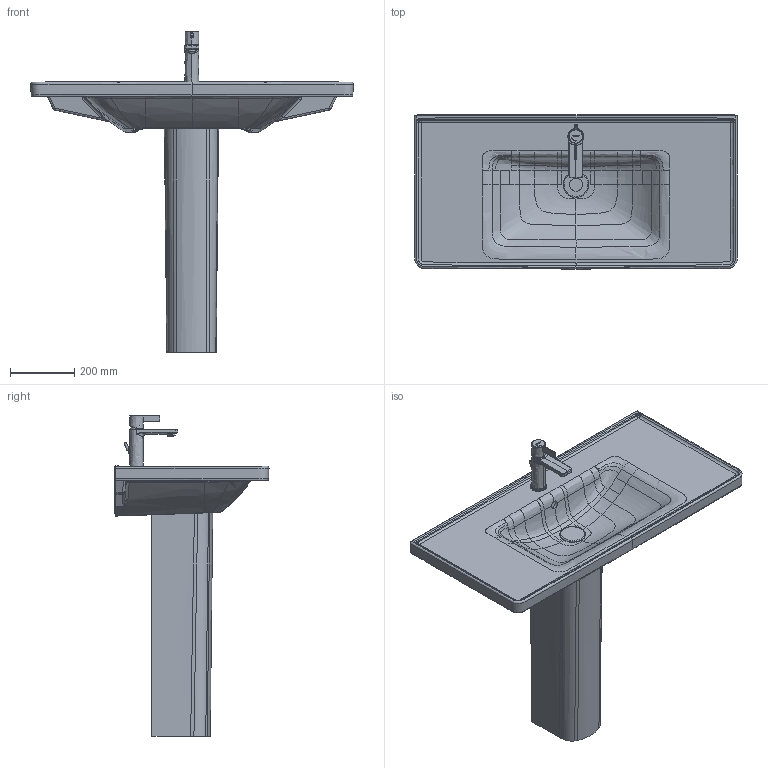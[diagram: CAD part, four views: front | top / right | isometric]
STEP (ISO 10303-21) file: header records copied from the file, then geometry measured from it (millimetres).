
FILE_DESCRIPTION(/* description */ (''),/* implementation_level */ '2;1');
FILE_NAME(/* name */ '236710_085842',/* time_stamp */ '2021-06-21T10:17:11+02:00',/* author */ (''),/* organization */ (''),/* preprocessor_version */ 'ST-DEVELOPER v15',/* originating_system */ '',/* authorisation */ '');
FILE_SCHEMA (('AUTOMOTIVE_DESIGN'));
Length unit declared in the file: millimetre
Products named in the file (1): Document
Bounding box: 1005.17 x 480.08 x 999.28 mm (x, y, z)
Volume: 30434955.1 mm3; surface area: 2237172.4 mm2
Topology: 5 solids, 10 shells, 712 faces, 1713 edges, 1034 vertices
Faces by surface type: bspline 552, plane 160
Entity records: 91821 total; most frequent: CARTESIAN_POINT 81198, ORIENTED_EDGE 3384, EDGE_CURVE 1699, B_SPLINE_CURVE_WITH_KNOTS 1402, VERTEX_POINT 1030, EDGE_LOOP 743, ADVANCED_FACE 708, FACE_OUTER_BOUND 708
